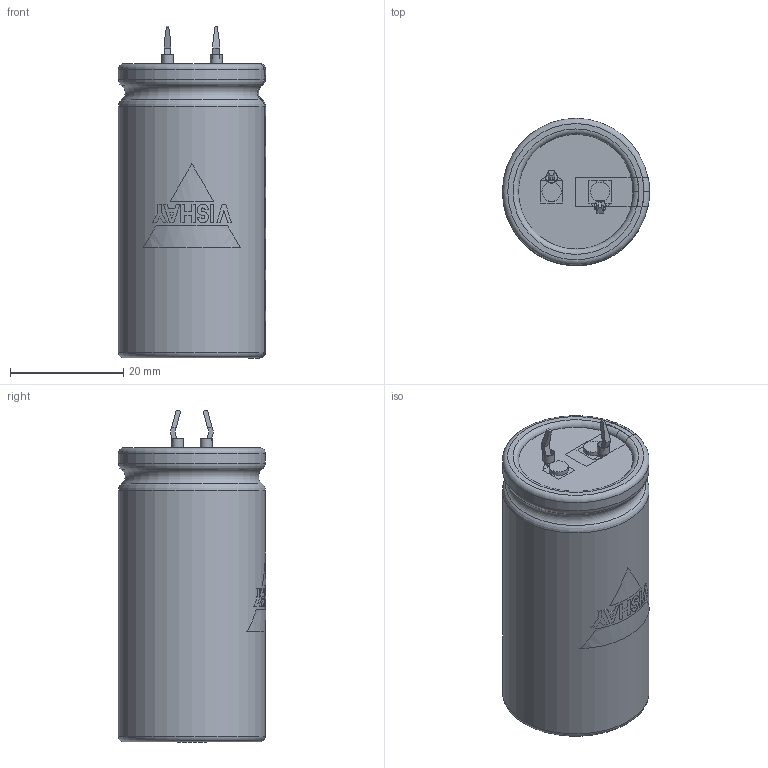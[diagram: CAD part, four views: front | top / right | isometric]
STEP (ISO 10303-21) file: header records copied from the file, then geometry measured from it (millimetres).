
FILE_DESCRIPTION(('FreeCAD Model'),'2;1');
FILE_NAME( 'C:/Users/Gebruiker/Documents/FreeCAD/SnapIn_25x50_2pin_5.8.step', '2020-11-12T20:11:21',('Author'),(''), 'Open CASCADE STEP processor 6.8','FreeCAD','Unknown');
FILE_SCHEMA(('AUTOMOTIVE_DESIGN_CC2 { 1 2 10303 214 -1 1 5 4 }'));
Length unit declared in the file: millimetre
Products named in the file (9): ASSEMBLY; TerminalMin; TerminalPlus; PCBHoles; Disc; BottomInsulation; Can3D; InkMinusBar; InkLogo
Assembly tree (8 placements, depth 2):
  ASSEMBLY
    TerminalMin
    TerminalPlus
    PCBHoles
    Disc
    BottomInsulation
    Can3D
    InkMinusBar
    InkLogo
Bounding box: 26.05 x 26.05 x 58.75 mm (x, y, z)
Volume: 30848.5 mm3; surface area: 11960.7 mm2
Topology: 16 solids, 16 shells, 200 faces, 502 edges, 329 vertices
Faces by surface type: plane 153, cylinder 29, torus 18
Full cylindrical faces by diameter (mm): 2 x2, 2.1 x2, 3.4 x2, 20.3 x1, 20.8 x2, 26 x2
Entity records: 20490 total; most frequent: CARTESIAN_POINT 9258, DIRECTION 1768, ORIENTED_EDGE 1004, PCURVE 1004, DEFINITIONAL_REPRESENTATION 1004, LINE 994, VECTOR 994, EDGE_CURVE 502
